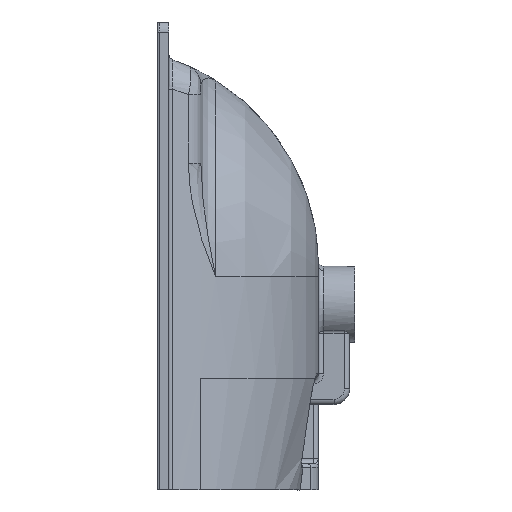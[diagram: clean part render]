
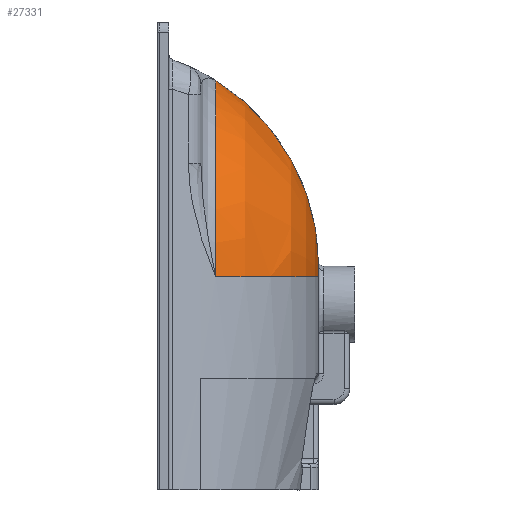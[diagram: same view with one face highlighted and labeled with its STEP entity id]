
A CAD part, left-side view. The second image highlights one B-rep face of the part: STEP entity #27331.
In plain terms, the highlighted toroidal (fillet/blend) face has major radius 10.641 mm and minor radius 210 mm.
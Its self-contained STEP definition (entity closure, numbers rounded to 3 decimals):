
#3115 = AXIS2_PLACEMENT_3D ( 'NONE', #6553, #13592, #9129 ) ;
#3935 = EDGE_CURVE ( 'NONE', #17874, #8128, #25218, .T. ) ;
#4870 = CARTESIAN_POINT ( 'NONE',  ( -1180., 55., -9.359 ) ) ;
#5598 = ORIENTED_EDGE ( 'NONE', *, *, #17032, .T. ) ;
#6553 = CARTESIAN_POINT ( 'NONE',  ( -1190.641, 55., -20. ) ) ;
#8098 = DIRECTION ( 'NONE',  ( 0., 0., -1. ) ) ;
#8101 = EDGE_LOOP ( 'NONE', ( #8531, #9340, #5598, #26499 ) ) ;
#8128 = VERTEX_POINT ( 'NONE', #12977 ) ;
#8185 = AXIS2_PLACEMENT_3D ( 'NONE', #20725, #27066, #9786 ) ;
#8531 = ORIENTED_EDGE ( 'NONE', *, *, #12940, .F. ) ;
#9129 = DIRECTION ( 'NONE',  ( 1., 0., 0. ) ) ;
#9340 = ORIENTED_EDGE ( 'NONE', *, *, #3935, .T. ) ;
#9786 = DIRECTION ( 'NONE',  ( 0., 0., 1. ) ) ;
#10132 = VERTEX_POINT ( 'NONE', #24850 ) ;
#10904 = DIRECTION ( 'NONE',  ( 0., -1., 0. ) ) ;
#11772 = DIRECTION ( 'NONE',  ( 0., 0., -1. ) ) ;
#12009 = AXIS2_PLACEMENT_3D ( 'NONE', #19236, #10904, #17519 ) ;
#12702 = CARTESIAN_POINT ( 'NONE',  ( -1180., -155., -20. ) ) ;
#12726 = CIRCLE ( 'NONE', #17333, 210. ) ;
#12940 = EDGE_CURVE ( 'NONE', #17874, #10132, #12726, .T. ) ;
#12977 = CARTESIAN_POINT ( 'NONE',  ( -1368.83, -56.125, -20. ) ) ;
#13592 = DIRECTION ( 'NONE',  ( 0., 0., 1. ) ) ;
#17032 = EDGE_CURVE ( 'NONE', #8128, #22537, #27954, .T. ) ;
#17333 = AXIS2_PLACEMENT_3D ( 'NONE', #4870, #22852, #11772 ) ;
#17519 = DIRECTION ( 'NONE',  ( 0., 0., -1. ) ) ;
#17874 = VERTEX_POINT ( 'NONE', #26601 ) ;
#19236 = CARTESIAN_POINT ( 'NONE',  ( -1180., 55., -20. ) ) ;
#20118 = EDGE_CURVE ( 'NONE', #10132, #22537, #20709, .T. ) ;
#20709 = CIRCLE ( 'NONE', #23907, 10.641 ) ;
#20725 = CARTESIAN_POINT ( 'NONE',  ( -1180., -56.125, -20. ) ) ;
#22537 = VERTEX_POINT ( 'NONE', #23597 ) ;
#22852 = DIRECTION ( 'NONE',  ( 1., 0., 0. ) ) ;
#23597 = CARTESIAN_POINT ( 'NONE',  ( -1190.641, -155., -20. ) ) ;
#23797 = DIRECTION ( 'NONE',  ( 0., -1., 0. ) ) ;
#23907 = AXIS2_PLACEMENT_3D ( 'NONE', #12702, #23797, #8098 ) ;
#24428 = TOROIDAL_SURFACE ( 'NONE', #12009, 10.641, 210. ) ;
#24850 = CARTESIAN_POINT ( 'NONE',  ( -1180., -155., -9.359 ) ) ;
#25218 = CIRCLE ( 'NONE', #8185, 188.83 ) ;
#26499 = ORIENTED_EDGE ( 'NONE', *, *, #20118, .F. ) ;
#26601 = CARTESIAN_POINT ( 'NONE',  ( -1180., -56.125, 168.83 ) ) ;
#27066 = DIRECTION ( 'NONE',  ( 0., -1., 0. ) ) ;
#27331 = ADVANCED_FACE ( 'NONE', ( #28189 ), #24428, .T. ) ;
#27954 = CIRCLE ( 'NONE', #3115, 210. ) ;
#28189 = FACE_OUTER_BOUND ( 'NONE', #8101, .T. ) ;
